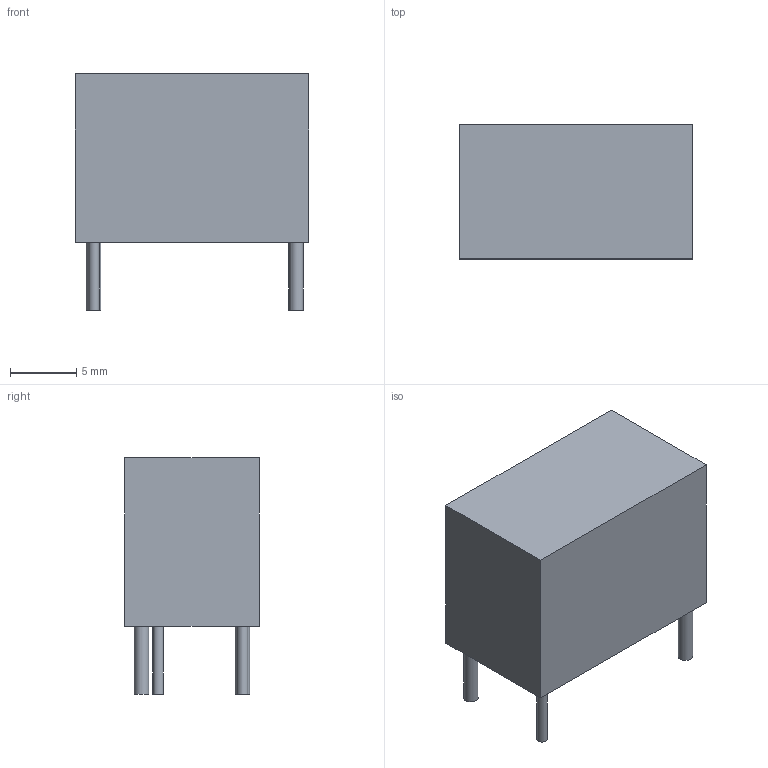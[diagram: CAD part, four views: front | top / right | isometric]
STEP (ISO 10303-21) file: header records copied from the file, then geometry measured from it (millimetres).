
FILE_DESCRIPTION(('FreeCAD Model'),'2;1');
FILE_NAME('/var/www/3D/0T/13331283.1.5.stp','2020-11-25T11:20:01',( 'Author'),(''),'Open CASCADE STEP processor 6.9','FreeCAD','Unknown' );
FILE_SCHEMA(('AUTOMOTIVE_DESIGN { 1 0 10303 214 1 1 1 1 }'));
Length unit declared in the file: millimetre
Products named in the file (3): ASSEMBLY; Body; Leads
Assembly tree (2 placements, depth 2):
  ASSEMBLY
    Body
    Leads
Bounding box: 17.6 x 10.1 x 17.8 mm (x, y, z)
Volume: 2272.4 mm3; surface area: 1125.8 mm2
Topology: 5 solids, 5 shells, 18 faces, 24 edges, 16 vertices
Faces by surface type: plane 14, cylinder 4
Full cylindrical faces by diameter (mm): 0.8 x2, 1.1 x2
Entity records: 775 total; most frequent: DIRECTION 122, CARTESIAN_POINT 109, LINE 56, VECTOR 56, ORIENTED_EDGE 48, PCURVE 48, DEFINITIONAL_REPRESENTATION 48, AXIS2_PLACEMENT_3D 29
